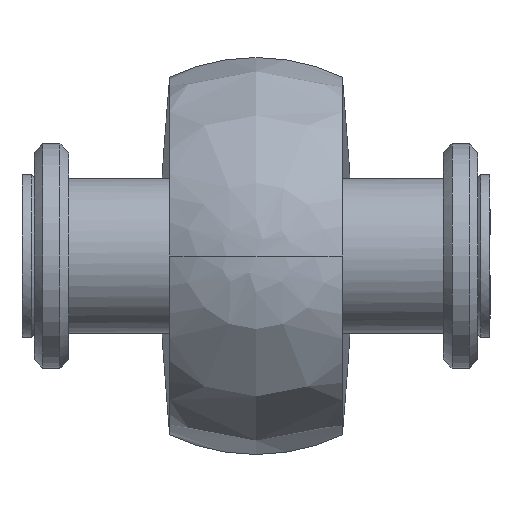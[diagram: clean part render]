
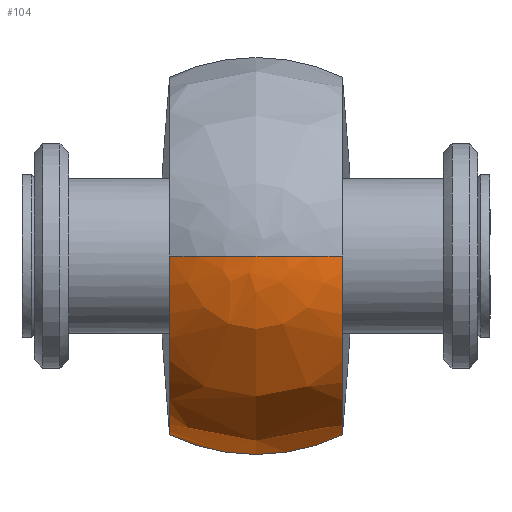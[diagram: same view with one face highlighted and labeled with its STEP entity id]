
A CAD part, left-side view. The second image highlights one B-rep face of the part: STEP entity #104.
In plain terms, the highlighted free-form (B-spline) face has degree [2, 2] with [9, 5] control points.
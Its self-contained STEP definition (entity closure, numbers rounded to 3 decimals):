
#104=ADVANCED_FACE('',(#178),#1243,.T.);
#178=FACE_OUTER_BOUND('',#262,.T.);
#262=EDGE_LOOP('',(#608,#609,#610,#611,#612));
#608=ORIENTED_EDGE('',*,*,#829,.T.);
#609=ORIENTED_EDGE('',*,*,#834,.F.);
#610=ORIENTED_EDGE('',*,*,#835,.F.);
#611=ORIENTED_EDGE('',*,*,#811,.T.);
#612=ORIENTED_EDGE('',*,*,#836,.T.);
#811=EDGE_CURVE('',#1160,#1159,#1011,.T.);
#829=EDGE_CURVE('',#1168,#1171,#1026,.T.);
#834=EDGE_CURVE('',#1170,#1171,#1030,.T.);
#835=EDGE_CURVE('',#1160,#1170,#1031,.T.);
#836=EDGE_CURVE('',#1159,#1168,#1032,.T.);
#1011=(
BOUNDED_CURVE()
B_SPLINE_CURVE(2,(#3261,#3262,#3263),.UNSPECIFIED.,.F.,.F.)
B_SPLINE_CURVE_WITH_KNOTS((3,3),(-16.267,0.),.UNSPECIFIED.)
CURVE()
GEOMETRIC_REPRESENTATION_ITEM()
RATIONAL_B_SPLINE_CURVE((1.,0.707,1.))
REPRESENTATION_ITEM('')
);
#1026=(
BOUNDED_CURVE()
B_SPLINE_CURVE(2,(#3312,#3313,#3314),.UNSPECIFIED.,.F.,.F.)
B_SPLINE_CURVE_WITH_KNOTS((3,3),(-32.535,-16.267),
 .UNSPECIFIED.)
CURVE()
GEOMETRIC_REPRESENTATION_ITEM()
RATIONAL_B_SPLINE_CURVE((1.,0.707,1.))
REPRESENTATION_ITEM('')
);
#1030=(
BOUNDED_CURVE()
B_SPLINE_CURVE(2,(#3326,#3327,#3328),.UNSPECIFIED.,.F.,.F.)
B_SPLINE_CURVE_WITH_KNOTS((3,3),(-1.571,-1.121),
 .UNSPECIFIED.)
CURVE()
GEOMETRIC_REPRESENTATION_ITEM()
RATIONAL_B_SPLINE_CURVE((1.,0.975,1.))
REPRESENTATION_ITEM('')
);
#1031=(
BOUNDED_CURVE()
B_SPLINE_CURVE(2,(#3329,#3330,#3331),.UNSPECIFIED.,.F.,.F.)
B_SPLINE_CURVE_WITH_KNOTS((3,3),(0.,5.173),.UNSPECIFIED.)
CURVE()
GEOMETRIC_REPRESENTATION_ITEM()
RATIONAL_B_SPLINE_CURVE((1.,0.975,1.))
REPRESENTATION_ITEM('')
);
#1032=(
BOUNDED_CURVE()
B_SPLINE_CURVE(2,(#3332,#3333,#3334),.UNSPECIFIED.,.F.,.F.)
B_SPLINE_CURVE_WITH_KNOTS((3,3),(0.,10.345),.UNSPECIFIED.)
CURVE()
GEOMETRIC_REPRESENTATION_ITEM()
RATIONAL_B_SPLINE_CURVE((1.,0.901,1.))
REPRESENTATION_ITEM('')
);
#1159=VERTEX_POINT('',#3102);
#1160=VERTEX_POINT('',#3103);
#1168=VERTEX_POINT('',#3111);
#1170=VERTEX_POINT('',#3113);
#1171=VERTEX_POINT('',#3114);
#1243=(
BOUNDED_SURFACE()
B_SPLINE_SURFACE(2,2,((#2916,#2917,#2918,#2919,#2920),(#2921,#2922,#2923,
#2924,#2925),(#2926,#2927,#2928,#2929,#2930),(#2931,#2932,#2933,#2934,#2935),
(#2936,#2937,#2938,#2939,#2940),(#2941,#2942,#2943,#2944,#2945),(#2946,
#2947,#2948,#2949,#2950),(#2951,#2952,#2953,#2954,#2955),(#2956,#2957,#2958,
#2959,#2960)),.UNSPECIFIED.,.T.,.F.,.F.)
B_SPLINE_SURFACE_WITH_KNOTS((3,2,2,2,3),(3,2,3),(0.,1.571,3.142,
4.712,6.283),(-1.571,0.,1.571),
 .UNSPECIFIED.)
GEOMETRIC_REPRESENTATION_ITEM()
RATIONAL_B_SPLINE_SURFACE(((1.,0.707,1.,0.707,1.),
(0.707,0.5,0.707,0.5,0.707),(1.,0.707,
1.,0.707,1.),(0.707,0.5,0.707,0.5,0.707),
(1.,0.707,1.,0.707,1.),(0.707,0.5,0.707,
0.5,0.707),(1.,0.707,1.,0.707,1.),(0.707,
0.5,0.707,0.5,0.707),(1.,0.707,1.,0.707,
1.)))
REPRESENTATION_ITEM('')
SURFACE()
);
#2916=CARTESIAN_POINT('',(-16.5,0.,0.));
#2917=CARTESIAN_POINT('',(-16.5,-11.5,0.));
#2918=CARTESIAN_POINT('',(-5.,-11.5,0.));
#2919=CARTESIAN_POINT('',(6.5,-11.5,0.));
#2920=CARTESIAN_POINT('',(6.5,0.,0.));
#2921=CARTESIAN_POINT('',(-16.5,0.,0.));
#2922=CARTESIAN_POINT('',(-16.5,-11.5,-11.5));
#2923=CARTESIAN_POINT('',(-5.,-11.5,-11.5));
#2924=CARTESIAN_POINT('',(6.5,-11.5,-11.5));
#2925=CARTESIAN_POINT('',(6.5,0.,0.));
#2926=CARTESIAN_POINT('',(-16.5,0.,0.));
#2927=CARTESIAN_POINT('',(-16.5,0.,-11.5));
#2928=CARTESIAN_POINT('',(-5.,0.,-11.5));
#2929=CARTESIAN_POINT('',(6.5,0.,-11.5));
#2930=CARTESIAN_POINT('',(6.5,0.,0.));
#2931=CARTESIAN_POINT('',(-16.5,0.,0.));
#2932=CARTESIAN_POINT('',(-16.5,11.5,-11.5));
#2933=CARTESIAN_POINT('',(-5.,11.5,-11.5));
#2934=CARTESIAN_POINT('',(6.5,11.5,-11.5));
#2935=CARTESIAN_POINT('',(6.5,0.,0.));
#2936=CARTESIAN_POINT('',(-16.5,0.,0.));
#2937=CARTESIAN_POINT('',(-16.5,11.5,0.));
#2938=CARTESIAN_POINT('',(-5.,11.5,0.));
#2939=CARTESIAN_POINT('',(6.5,11.5,0.));
#2940=CARTESIAN_POINT('',(6.5,0.,0.));
#2941=CARTESIAN_POINT('',(-16.5,0.,0.));
#2942=CARTESIAN_POINT('',(-16.5,11.5,11.5));
#2943=CARTESIAN_POINT('',(-5.,11.5,11.5));
#2944=CARTESIAN_POINT('',(6.5,11.5,11.5));
#2945=CARTESIAN_POINT('',(6.5,0.,0.));
#2946=CARTESIAN_POINT('',(-16.5,0.,0.));
#2947=CARTESIAN_POINT('',(-16.5,0.,11.5));
#2948=CARTESIAN_POINT('',(-5.,0.,11.5));
#2949=CARTESIAN_POINT('',(6.5,0.,11.5));
#2950=CARTESIAN_POINT('',(6.5,0.,0.));
#2951=CARTESIAN_POINT('',(-16.5,0.,0.));
#2952=CARTESIAN_POINT('',(-16.5,-11.5,11.5));
#2953=CARTESIAN_POINT('',(-5.,-11.5,11.5));
#2954=CARTESIAN_POINT('',(6.5,-11.5,11.5));
#2955=CARTESIAN_POINT('',(6.5,0.,0.));
#2956=CARTESIAN_POINT('',(-16.5,0.,0.));
#2957=CARTESIAN_POINT('',(-16.5,-11.5,0.));
#2958=CARTESIAN_POINT('',(-5.,-11.5,0.));
#2959=CARTESIAN_POINT('',(6.5,-11.5,0.));
#2960=CARTESIAN_POINT('',(6.5,0.,0.));
#3102=CARTESIAN_POINT('',(-5.,5.,-10.356));
#3103=CARTESIAN_POINT('',(-15.356,5.,0.));
#3111=CARTESIAN_POINT('',(-5.,-5.,-10.356));
#3113=CARTESIAN_POINT('',(-16.5,0.,0.));
#3114=CARTESIAN_POINT('',(-15.356,-5.,0.));
#3261=CARTESIAN_POINT('',(-15.356,5.,0.));
#3262=CARTESIAN_POINT('',(-15.356,5.,-10.356));
#3263=CARTESIAN_POINT('',(-5.,5.,-10.356));
#3312=CARTESIAN_POINT('',(-5.,-5.,-10.356));
#3313=CARTESIAN_POINT('',(-15.356,-5.,-10.356));
#3314=CARTESIAN_POINT('',(-15.356,-5.,0.));
#3326=CARTESIAN_POINT('',(-16.5,0.,0.));
#3327=CARTESIAN_POINT('',(-16.5,-2.631,0.));
#3328=CARTESIAN_POINT('',(-15.356,-5.,0.));
#3329=CARTESIAN_POINT('',(-15.356,5.,0.));
#3330=CARTESIAN_POINT('',(-16.5,2.631,0.));
#3331=CARTESIAN_POINT('',(-16.5,0.,0.));
#3332=CARTESIAN_POINT('',(-5.,5.,-10.356));
#3333=CARTESIAN_POINT('',(-5.,0.,-12.77));
#3334=CARTESIAN_POINT('',(-5.,-5.,-10.356));
